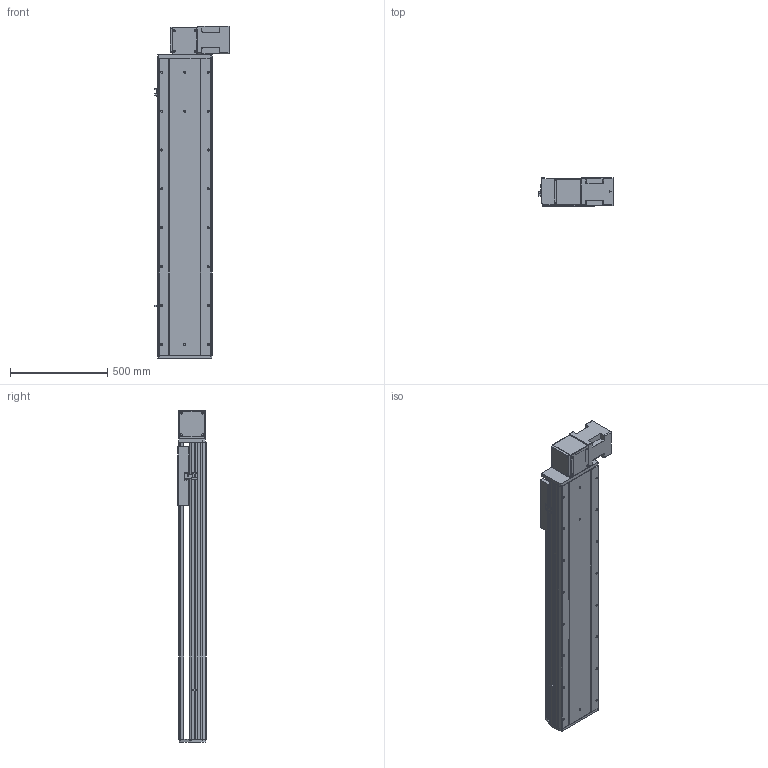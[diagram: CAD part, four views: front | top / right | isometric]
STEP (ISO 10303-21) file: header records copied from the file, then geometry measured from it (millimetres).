
FILE_DESCRIPTION (( 'STEP AP214' ), '1' );
FILE_NAME ('RTB28S-XX-1100-BL-M100-XX-C4.STEP', '2025-12-22T02:20:29', ( '' ), ( '' ), 'SwSTEP 2.0', 'SolidWorks 2018', '' );
FILE_SCHEMA (( 'AUTOMOTIVE_DESIGN' ));
Length unit declared in the file: millimetre
Products named in the file (4): RTB28S-GY-008^RTB28S-XX-XX-BL-M100-XX-C4; RTB28S-XX-1100-BL-M100-XX-C4; RTB28S-GY-004^RTB28S-XX-XX-BL-M100-XX-C4; RTB28S-GY-011^RTB28S-XX-XX-BL-M100-XX-C4
Assembly tree (3 placements, depth 2):
  RTB28S-XX-1100-BL-M100-XX-C4
    RTB28S-GY-011^RTB28S-XX-XX-BL-M100-XX-C4
    RTB28S-GY-004^RTB28S-XX-XX-BL-M100-XX-C4
    RTB28S-GY-008^RTB28S-XX-XX-BL-M100-XX-C4
Bounding box: 380.7 x 145 x 1707 mm (x, y, z)
Volume: 31194634.7 mm3; surface area: 3002219.1 mm2
Topology: 3 solids, 4 shells, 788 faces, 2088 edges, 1328 vertices
Faces by surface type: cylinder 359, plane 345, cone 80, torus 4
Entity records: 29513 total; most frequent: CARTESIAN_POINT 5002, DIRECTION 4422, ORIENTED_EDGE 4112, EDGE_CURVE 2056, AXIS2_PLACEMENT_3D 1596, VERTEX_POINT 1328, VECTOR 1230, LINE 1230
